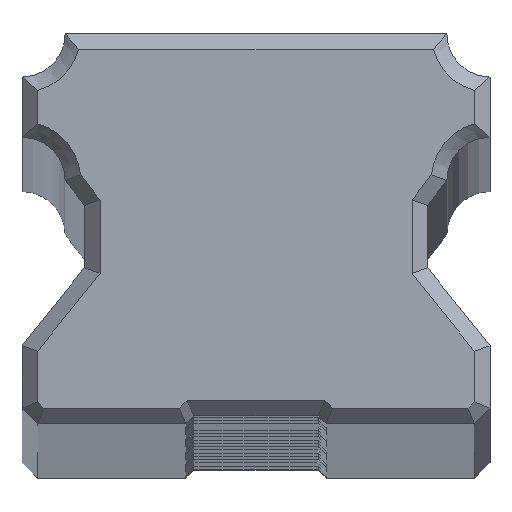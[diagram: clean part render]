
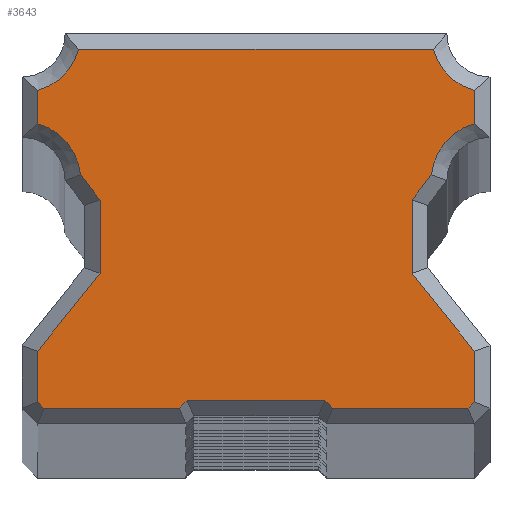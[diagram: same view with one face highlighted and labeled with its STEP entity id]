
A CAD part, top view. The second image highlights one B-rep face of the part: STEP entity #3643.
In plain terms, the highlighted planar face has unit normal (0, 0, 1).
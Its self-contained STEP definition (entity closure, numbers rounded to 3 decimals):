
#250=CIRCLE('',#3886,1.886);
#252=CIRCLE('',#3890,1.886);
#254=CIRCLE('',#3894,1.886);
#255=CIRCLE('',#3897,1.886);
#516=FACE_OUTER_BOUND('',#754,.T.);
#754=EDGE_LOOP('',(#2662,#2663,#2664,#2665,#2666,#2667,#2668,#2669,#2670,
#2671,#2672,#2673,#2674,#2675,#2676,#2677,#2678,#2679,#2680,#2681,#2682,
#2683));
#1030=LINE('',#5718,#1271);
#1033=LINE('',#5738,#1274);
#1035=LINE('',#5755,#1276);
#1036=LINE('',#5769,#1277);
#1037=LINE('',#5783,#1278);
#1039=LINE('',#5787,#1280);
#1041=LINE('',#5791,#1282);
#1043=LINE('',#5795,#1284);
#1045=LINE('',#5799,#1286);
#1047=LINE('',#5803,#1288);
#1050=LINE('',#5809,#1291);
#1053=LINE('',#5815,#1294);
#1056=LINE('',#5821,#1297);
#1059=LINE('',#5827,#1300);
#1062=LINE('',#5833,#1303);
#1065=LINE('',#5839,#1306);
#1068=LINE('',#5845,#1309);
#1071=LINE('',#5849,#1312);
#1271=VECTOR('',#4495,10.);
#1274=VECTOR('',#4506,10.);
#1276=VECTOR('',#4516,10.);
#1277=VECTOR('',#4523,10.);
#1278=VECTOR('',#4530,10.);
#1280=VECTOR('',#4534,10.);
#1282=VECTOR('',#4538,10.);
#1284=VECTOR('',#4542,10.);
#1286=VECTOR('',#4546,10.);
#1288=VECTOR('',#4550,10.);
#1291=VECTOR('',#4555,10.);
#1294=VECTOR('',#4560,10.);
#1297=VECTOR('',#4565,10.);
#1300=VECTOR('',#4570,10.);
#1303=VECTOR('',#4575,10.);
#1306=VECTOR('',#4580,10.);
#1309=VECTOR('',#4585,10.);
#1312=VECTOR('',#4590,10.);
#1516=VERTEX_POINT('',#5716);
#1517=VERTEX_POINT('',#5717);
#1520=VERTEX_POINT('',#5728);
#1522=VERTEX_POINT('',#5737);
#1524=VERTEX_POINT('',#5746);
#1525=VERTEX_POINT('',#5754);
#1526=VERTEX_POINT('',#5761);
#1527=VERTEX_POINT('',#5768);
#1528=VERTEX_POINT('',#5775);
#1529=VERTEX_POINT('',#5782);
#1530=VERTEX_POINT('',#5786);
#1531=VERTEX_POINT('',#5790);
#1532=VERTEX_POINT('',#5794);
#1533=VERTEX_POINT('',#5798);
#1534=VERTEX_POINT('',#5802);
#1536=VERTEX_POINT('',#5808);
#1538=VERTEX_POINT('',#5814);
#1540=VERTEX_POINT('',#5820);
#1542=VERTEX_POINT('',#5826);
#1544=VERTEX_POINT('',#5832);
#1546=VERTEX_POINT('',#5838);
#1548=VERTEX_POINT('',#5844);
#1892=EDGE_CURVE('',#1516,#1517,#1030,.T.);
#1896=EDGE_CURVE('',#1517,#1520,#250,.T.);
#1899=EDGE_CURVE('',#1520,#1522,#1033,.T.);
#1902=EDGE_CURVE('',#1522,#1524,#252,.T.);
#1905=EDGE_CURVE('',#1524,#1525,#1035,.T.);
#1907=EDGE_CURVE('',#1525,#1526,#254,.T.);
#1909=EDGE_CURVE('',#1526,#1527,#1036,.T.);
#1911=EDGE_CURVE('',#1527,#1528,#255,.T.);
#1913=EDGE_CURVE('',#1528,#1529,#1037,.T.);
#1915=EDGE_CURVE('',#1529,#1530,#1039,.T.);
#1917=EDGE_CURVE('',#1530,#1531,#1041,.T.);
#1919=EDGE_CURVE('',#1531,#1532,#1043,.T.);
#1921=EDGE_CURVE('',#1532,#1533,#1045,.T.);
#1923=EDGE_CURVE('',#1533,#1534,#1047,.T.);
#1926=EDGE_CURVE('',#1534,#1536,#1050,.T.);
#1929=EDGE_CURVE('',#1536,#1538,#1053,.T.);
#1932=EDGE_CURVE('',#1538,#1540,#1056,.T.);
#1935=EDGE_CURVE('',#1540,#1542,#1059,.T.);
#1938=EDGE_CURVE('',#1542,#1544,#1062,.T.);
#1941=EDGE_CURVE('',#1544,#1546,#1065,.T.);
#1944=EDGE_CURVE('',#1546,#1548,#1068,.T.);
#1947=EDGE_CURVE('',#1548,#1516,#1071,.T.);
#2662=ORIENTED_EDGE('',*,*,#1892,.F.);
#2663=ORIENTED_EDGE('',*,*,#1947,.F.);
#2664=ORIENTED_EDGE('',*,*,#1944,.F.);
#2665=ORIENTED_EDGE('',*,*,#1941,.F.);
#2666=ORIENTED_EDGE('',*,*,#1938,.F.);
#2667=ORIENTED_EDGE('',*,*,#1935,.F.);
#2668=ORIENTED_EDGE('',*,*,#1932,.F.);
#2669=ORIENTED_EDGE('',*,*,#1929,.F.);
#2670=ORIENTED_EDGE('',*,*,#1926,.F.);
#2671=ORIENTED_EDGE('',*,*,#1923,.F.);
#2672=ORIENTED_EDGE('',*,*,#1921,.F.);
#2673=ORIENTED_EDGE('',*,*,#1919,.F.);
#2674=ORIENTED_EDGE('',*,*,#1917,.F.);
#2675=ORIENTED_EDGE('',*,*,#1915,.F.);
#2676=ORIENTED_EDGE('',*,*,#1913,.F.);
#2677=ORIENTED_EDGE('',*,*,#1911,.F.);
#2678=ORIENTED_EDGE('',*,*,#1909,.F.);
#2679=ORIENTED_EDGE('',*,*,#1907,.F.);
#2680=ORIENTED_EDGE('',*,*,#1905,.F.);
#2681=ORIENTED_EDGE('',*,*,#1902,.F.);
#2682=ORIENTED_EDGE('',*,*,#1899,.F.);
#2683=ORIENTED_EDGE('',*,*,#1896,.F.);
#3509=PLANE('',#3924);
#3643=ADVANCED_FACE('',(#516),#3509,.T.);
#3886=AXIS2_PLACEMENT_3D('',#5729,#4500,#4501);
#3890=AXIS2_PLACEMENT_3D('',#5747,#4510,#4511);
#3894=AXIS2_PLACEMENT_3D('',#5762,#4519,#4520);
#3897=AXIS2_PLACEMENT_3D('',#5776,#4526,#4527);
#3924=AXIS2_PLACEMENT_3D('',#5915,#4641,#4642);
#4495=DIRECTION('',(-0.609,0.793,0.));
#4500=DIRECTION('center_axis',(0.,0.,1.));
#4501=DIRECTION('ref_axis',(1.,0.,0.));
#4506=DIRECTION('',(0.,1.,0.));
#4510=DIRECTION('center_axis',(0.,0.,1.));
#4511=DIRECTION('ref_axis',(0.,-1.,0.));
#4516=DIRECTION('',(1.,0.,0.));
#4519=DIRECTION('center_axis',(0.,0.,1.));
#4520=DIRECTION('ref_axis',(0.,-1.,0.));
#4523=DIRECTION('',(0.,-1.,0.));
#4526=DIRECTION('center_axis',(0.,0.,1.));
#4527=DIRECTION('ref_axis',(-1.,0.,0.));
#4530=DIRECTION('',(-0.609,-0.793,0.));
#4534=DIRECTION('',(0.,-1.,0.));
#4538=DIRECTION('',(0.625,-0.781,0.));
#4542=DIRECTION('',(0.,-1.,0.));
#4546=DIRECTION('',(-0.707,-0.707,0.));
#4550=DIRECTION('',(-1.,0.,0.));
#4555=DIRECTION('',(-0.707,0.707,0.));
#4560=DIRECTION('',(-1.,0.,0.));
#4565=DIRECTION('',(-0.707,-0.707,0.));
#4570=DIRECTION('',(-1.,0.,0.));
#4575=DIRECTION('',(-0.707,0.707,0.));
#4580=DIRECTION('',(0.,1.,0.));
#4585=DIRECTION('',(0.625,0.781,0.));
#4590=DIRECTION('',(0.,1.,0.));
#4641=DIRECTION('center_axis',(0.,0.,1.));
#4642=DIRECTION('ref_axis',(1.,0.,0.));
#5716=CARTESIAN_POINT('',(-5.,7.17,1000.));
#5717=CARTESIAN_POINT('',(-5.623,7.981,1000.));
#5718=CARTESIAN_POINT('',(-4.905,7.046,1000.));
#5728=CARTESIAN_POINT('',(-7.,9.619,1000.));
#5729=CARTESIAN_POINT('Origin',(-7.5,7.8,1000.));
#5737=CARTESIAN_POINT('',(-7.,10.681,1000.));
#5738=CARTESIAN_POINT('',(-7.,8.682,1000.));
#5746=CARTESIAN_POINT('',(-5.681,12.,1000.));
#5747=CARTESIAN_POINT('Origin',(-7.5,12.5,1000.));
#5754=CARTESIAN_POINT('',(5.681,12.,1000.));
#5755=CARTESIAN_POINT('',(-1.875,12.,1000.));
#5761=CARTESIAN_POINT('',(7.,10.681,1000.));
#5762=CARTESIAN_POINT('Origin',(7.5,12.5,1000.));
#5768=CARTESIAN_POINT('',(7.,9.619,1000.));
#5769=CARTESIAN_POINT('',(7.,8.682,1000.));
#5775=CARTESIAN_POINT('',(5.623,7.981,1000.));
#5776=CARTESIAN_POINT('Origin',(7.5,7.8,1000.));
#5782=CARTESIAN_POINT('',(5.,7.17,1000.));
#5783=CARTESIAN_POINT('',(3.515,5.235,1000.));
#5786=CARTESIAN_POINT('',(5.,4.825,1000.));
#5787=CARTESIAN_POINT('',(5.,6.625,1000.));
#5790=CARTESIAN_POINT('',(7.,2.325,1000.));
#5791=CARTESIAN_POINT('',(3.,7.325,1000.));
#5794=CARTESIAN_POINT('',(7.,0.707,1000.));
#5795=CARTESIAN_POINT('',(7.,4.375,1000.));
#5798=CARTESIAN_POINT('',(6.793,0.5,1000.));
#5799=CARTESIAN_POINT('',(5.771,-0.521,1000.));
#5802=CARTESIAN_POINT('',(2.457,0.5,1000.));
#5803=CARTESIAN_POINT('',(1.625,0.5,1000.));
#5808=CARTESIAN_POINT('',(2.207,0.75,1000.));
#5809=CARTESIAN_POINT('',(-0.459,3.416,1000.));
#5814=CARTESIAN_POINT('',(-2.207,0.75,1000.));
#5815=CARTESIAN_POINT('',(-2.875,0.75,1000.));
#5820=CARTESIAN_POINT('',(-2.457,0.5,1000.));
#5821=CARTESIAN_POINT('',(-1.416,1.541,1000.));
#5826=CARTESIAN_POINT('',(-6.793,0.5,1000.));
#5827=CARTESIAN_POINT('',(-5.375,0.5,1000.));
#5832=CARTESIAN_POINT('',(-7.,0.707,1000.));
#5833=CARTESIAN_POINT('',(-7.646,1.354,1000.));
#5838=CARTESIAN_POINT('',(-7.,2.325,1000.));
#5839=CARTESIAN_POINT('',(-7.,4.375,1000.));
#5844=CARTESIAN_POINT('',(-5.,4.825,1000.));
#5845=CARTESIAN_POINT('',(-4.463,5.496,1000.));
#5849=CARTESIAN_POINT('',(-5.,6.625,1000.));
#5915=CARTESIAN_POINT('Origin',(-3.75,6.25,1000.));
